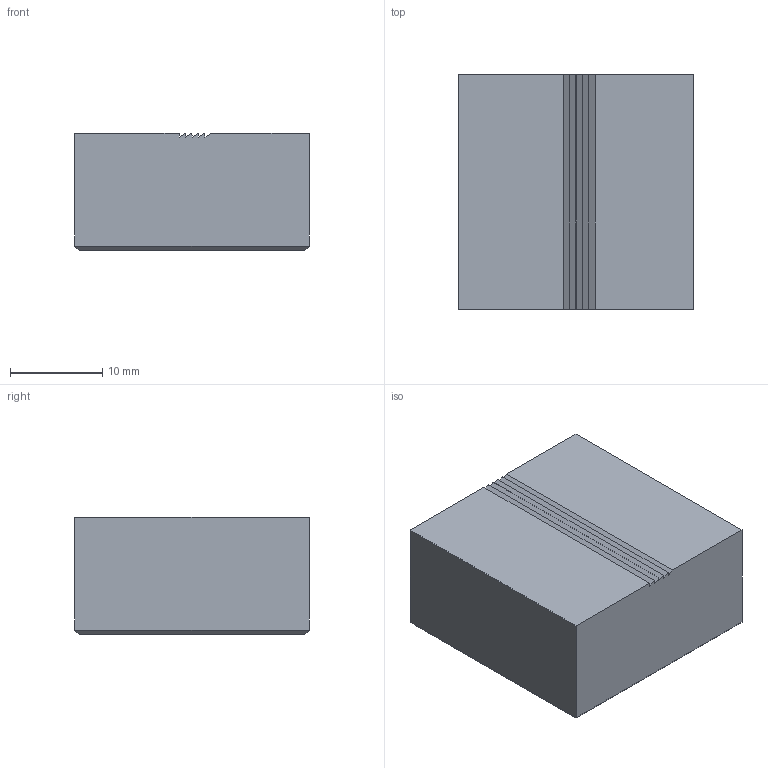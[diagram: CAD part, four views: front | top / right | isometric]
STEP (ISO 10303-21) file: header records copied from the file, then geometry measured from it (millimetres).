
FILE_DESCRIPTION((''),'2;1');
FILE_NAME('3532W009.stp','2001-04-09T10:34:38',(''),(''),'AutoCAD STEP 2000i','AutoCAD 2000i',', , ');
FILE_SCHEMA(('CONFIG_CONTROL_DESIGN'));
Length unit declared in the file: millimetre
Products named in the file (2): 3532E-MDTA; 3532E-MDT
Assembly tree (1 placements, depth 2):
  3532E-MDTA
    3532E-MDT
Bounding box: 25.4 x 25.4 x 12.7 mm (x, y, z)
Volume: 8163.2 mm3; surface area: 2613.4 mm2
Topology: 1 solids, 1 shells, 21 faces, 53 edges, 34 vertices
Faces by surface type: plane 21
Entity records: 724 total; most frequent: CARTESIAN_POINT 110, ORIENTED_EDGE 106, DIRECTION 99, VECTOR 53, LINE 53, EDGE_CURVE 53, VERTEX_POINT 34, AXIS2_PLACEMENT_3D 23
